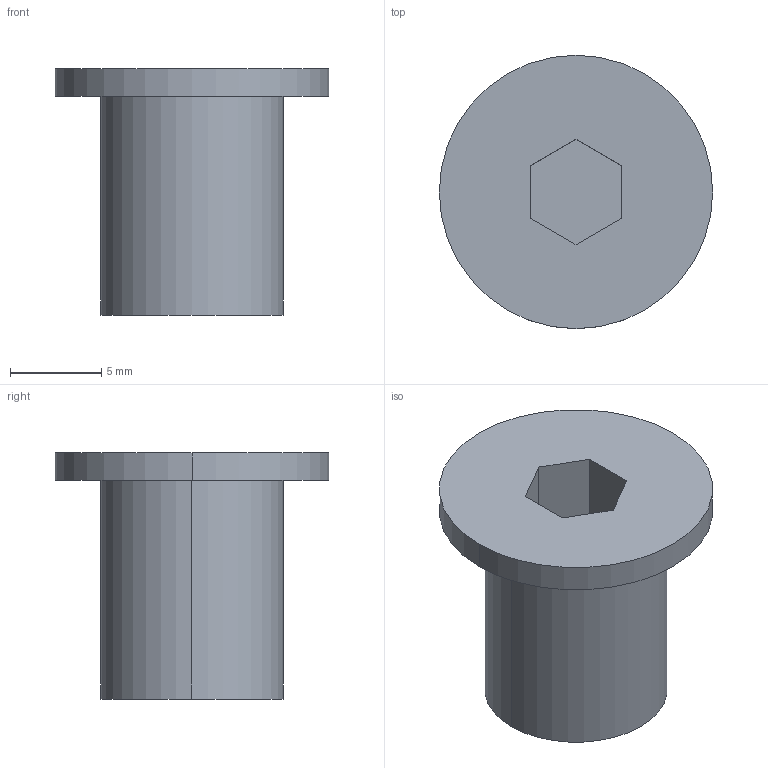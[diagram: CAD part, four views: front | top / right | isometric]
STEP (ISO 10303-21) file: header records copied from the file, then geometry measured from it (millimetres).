
FILE_DESCRIPTION (( 'STEP AP214' ), '1' );
FILE_NAME ('EXTRA_LOW_HEAD_CAP_BOLT_M10(2)(L=012).STEP', '2021-09-19T02:21:55', ( '' ), ( '' ), 'SwSTEP 2.0', 'SolidWorks 2018', '' );
FILE_SCHEMA (( 'AUTOMOTIVE_DESIGN' ));
Length unit declared in the file: millimetre
Products named in the file (1): EXTRA_LOW_HEAD_CAP_BOLT_M10(2)(L=012)
Bounding box: 15 x 15 x 13.5 mm (x, y, z)
Volume: 1077.6 mm3; surface area: 905 mm2
Topology: 1 solids, 1 shells, 14 faces, 30 edges, 20 vertices
Faces by surface type: plane 10, cylinder 4
Entity records: 416 total; most frequent: DIRECTION 68, CARTESIAN_POINT 65, ORIENTED_EDGE 60, EDGE_CURVE 30, AXIS2_PLACEMENT_3D 23, VECTOR 22, LINE 22, VERTEX_POINT 20
